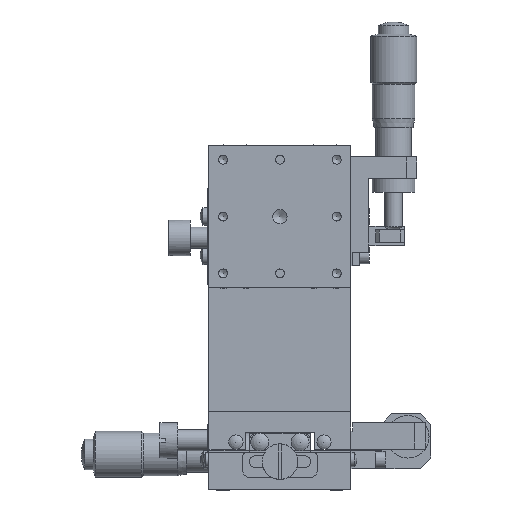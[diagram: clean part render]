
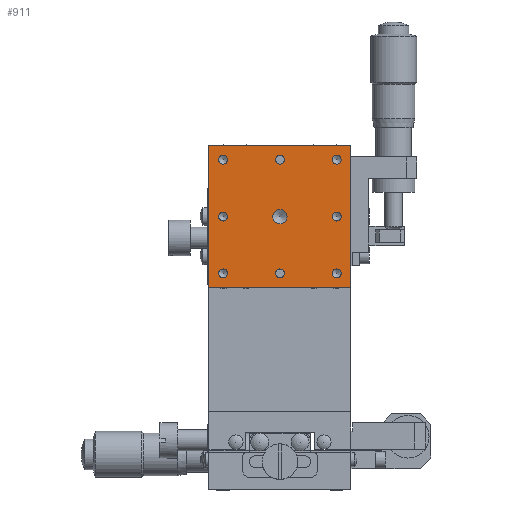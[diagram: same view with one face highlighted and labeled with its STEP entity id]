
A CAD part, front view. The second image highlights one B-rep face of the part: STEP entity #911.
In plain terms, the highlighted planar face has unit normal (0, -1, 0).
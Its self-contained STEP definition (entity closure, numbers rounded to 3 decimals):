
#911 = ADVANCED_FACE( '', ( #2153, #2154, #2155, #2156, #2157, #2158, #2159, #2160, #2161, #2162 ), #2163, .T. );
#2153 = FACE_BOUND( '', #3580, .T. );
#2154 = FACE_BOUND( '', #3581, .T. );
#2155 = FACE_BOUND( '', #3582, .T. );
#2156 = FACE_BOUND( '', #3583, .T. );
#2157 = FACE_BOUND( '', #3584, .T. );
#2158 = FACE_BOUND( '', #3585, .T. );
#2159 = FACE_BOUND( '', #3586, .T. );
#2160 = FACE_BOUND( '', #3587, .T. );
#2161 = FACE_BOUND( '', #3588, .T. );
#2162 = FACE_OUTER_BOUND( '', #3589, .T. );
#2163 = PLANE( '', #3590 );
#3580 = EDGE_LOOP( '', ( #7161 ) );
#3581 = EDGE_LOOP( '', ( #7162 ) );
#3582 = EDGE_LOOP( '', ( #7163 ) );
#3583 = EDGE_LOOP( '', ( #7164 ) );
#3584 = EDGE_LOOP( '', ( #7165 ) );
#3585 = EDGE_LOOP( '', ( #7166 ) );
#3586 = EDGE_LOOP( '', ( #7167 ) );
#3587 = EDGE_LOOP( '', ( #7168 ) );
#3588 = EDGE_LOOP( '', ( #7169 ) );
#3589 = EDGE_LOOP( '', ( #7170, #7171, #7172, #7173 ) );
#3590 = AXIS2_PLACEMENT_3D( '', #7174, #7175, #7176 );
#7161 = ORIENTED_EDGE( '', *, *, #8827, .T. );
#7162 = ORIENTED_EDGE( '', *, *, #8828, .T. );
#7163 = ORIENTED_EDGE( '', *, *, #8829, .T. );
#7164 = ORIENTED_EDGE( '', *, *, #8830, .T. );
#7165 = ORIENTED_EDGE( '', *, *, #8831, .T. );
#7166 = ORIENTED_EDGE( '', *, *, #8832, .T. );
#7167 = ORIENTED_EDGE( '', *, *, #8833, .T. );
#7168 = ORIENTED_EDGE( '', *, *, #8834, .T. );
#7169 = ORIENTED_EDGE( '', *, *, #8835, .T. );
#7170 = ORIENTED_EDGE( '', *, *, #8836, .F. );
#7171 = ORIENTED_EDGE( '', *, *, #8822, .F. );
#7172 = ORIENTED_EDGE( '', *, *, #8837, .F. );
#7173 = ORIENTED_EDGE( '', *, *, #8838, .F. );
#7174 = CARTESIAN_POINT( '', ( 0., -25., 77. ) );
#7175 = DIRECTION( '', ( 0., -1., 0. ) );
#7176 = DIRECTION( '', ( 1., 0., 0. ) );
#8822 = EDGE_CURVE( '', #10668, #10664, #10670, .T. );
#8827 = EDGE_CURVE( '', #10679, #10679, #10680, .T. );
#8828 = EDGE_CURVE( '', #10681, #10681, #10682, .T. );
#8829 = EDGE_CURVE( '', #10683, #10683, #10684, .T. );
#8830 = EDGE_CURVE( '', #10685, #10685, #10686, .T. );
#8831 = EDGE_CURVE( '', #10687, #10687, #10688, .T. );
#8832 = EDGE_CURVE( '', #10689, #10689, #10690, .T. );
#8833 = EDGE_CURVE( '', #10691, #10691, #10692, .T. );
#8834 = EDGE_CURVE( '', #10693, #10693, #10694, .T. );
#8835 = EDGE_CURVE( '', #10695, #10695, #10696, .T. );
#8836 = EDGE_CURVE( '', #10664, #10697, #10698, .T. );
#8837 = EDGE_CURVE( '', #10699, #10668, #10700, .T. );
#8838 = EDGE_CURVE( '', #10697, #10699, #10701, .T. );
#10664 = VERTEX_POINT( '', #13373 );
#10668 = VERTEX_POINT( '', #13379 );
#10670 = LINE( '', #13382, #13383 );
#10679 = VERTEX_POINT( '', #13396 );
#10680 = CIRCLE( '', #13397, 1.25 );
#10681 = VERTEX_POINT( '', #13398 );
#10682 = CIRCLE( '', #13399, 1.25 );
#10683 = VERTEX_POINT( '', #13400 );
#10684 = CIRCLE( '', #13401, 1.25 );
#10685 = VERTEX_POINT( '', #13402 );
#10686 = CIRCLE( '', #13403, 1.25 );
#10687 = VERTEX_POINT( '', #13404 );
#10688 = CIRCLE( '', #13405, 1.25 );
#10689 = VERTEX_POINT( '', #13406 );
#10690 = CIRCLE( '', #13407, 1.25 );
#10691 = VERTEX_POINT( '', #13408 );
#10692 = CIRCLE( '', #13409, 1.25 );
#10693 = VERTEX_POINT( '', #13410 );
#10694 = CIRCLE( '', #13411, 1.25 );
#10695 = VERTEX_POINT( '', #13412 );
#10696 = CIRCLE( '', #13413, 2. );
#10697 = VERTEX_POINT( '', #13414 );
#10698 = LINE( '', #13415, #13416 );
#10699 = VERTEX_POINT( '', #13417 );
#10700 = LINE( '', #13418, #13419 );
#10701 = LINE( '', #13420, #13421 );
#13373 = CARTESIAN_POINT( '', ( 20., -25., 57. ) );
#13379 = CARTESIAN_POINT( '', ( 20., -25., 97. ) );
#13382 = CARTESIAN_POINT( '', ( 20., -25., 77. ) );
#13383 = VECTOR( '', #15389, 1000. );
#13396 = CARTESIAN_POINT( '', ( 17.25, -25., 77. ) );
#13397 = AXIS2_PLACEMENT_3D( '', #15394, #15395, #15396 );
#13398 = CARTESIAN_POINT( '', ( 17.25, -25., 93. ) );
#13399 = AXIS2_PLACEMENT_3D( '', #15397, #15398, #15399 );
#13400 = CARTESIAN_POINT( '', ( 1.25, -25., 93. ) );
#13401 = AXIS2_PLACEMENT_3D( '', #15400, #15401, #15402 );
#13402 = CARTESIAN_POINT( '', ( -14.75, -25., 93. ) );
#13403 = AXIS2_PLACEMENT_3D( '', #15403, #15404, #15405 );
#13404 = CARTESIAN_POINT( '', ( -14.75, -25., 77. ) );
#13405 = AXIS2_PLACEMENT_3D( '', #15406, #15407, #15408 );
#13406 = CARTESIAN_POINT( '', ( -14.75, -25., 61. ) );
#13407 = AXIS2_PLACEMENT_3D( '', #15409, #15410, #15411 );
#13408 = CARTESIAN_POINT( '', ( 1.25, -25., 61. ) );
#13409 = AXIS2_PLACEMENT_3D( '', #15412, #15413, #15414 );
#13410 = CARTESIAN_POINT( '', ( 17.25, -25., 61. ) );
#13411 = AXIS2_PLACEMENT_3D( '', #15415, #15416, #15417 );
#13412 = CARTESIAN_POINT( '', ( 2., -25., 77. ) );
#13413 = AXIS2_PLACEMENT_3D( '', #15418, #15419, #15420 );
#13414 = CARTESIAN_POINT( '', ( -20., -25., 57. ) );
#13415 = CARTESIAN_POINT( '', ( 0., -25., 57. ) );
#13416 = VECTOR( '', #15421, 1000. );
#13417 = CARTESIAN_POINT( '', ( -20., -25., 97. ) );
#13418 = CARTESIAN_POINT( '', ( 0., -25., 97. ) );
#13419 = VECTOR( '', #15422, 1000. );
#13420 = CARTESIAN_POINT( '', ( -20., -25., 77. ) );
#13421 = VECTOR( '', #15423, 1000. );
#15389 = DIRECTION( '', ( 0., 0., -1. ) );
#15394 = CARTESIAN_POINT( '', ( 16., -25., 77. ) );
#15395 = DIRECTION( '', ( 0., 1., 0. ) );
#15396 = DIRECTION( '', ( 1., 0., 0. ) );
#15397 = CARTESIAN_POINT( '', ( 16., -25., 93. ) );
#15398 = DIRECTION( '', ( 0., 1., 0. ) );
#15399 = DIRECTION( '', ( 1., 0., 0. ) );
#15400 = CARTESIAN_POINT( '', ( 0., -25., 93. ) );
#15401 = DIRECTION( '', ( 0., 1., 0. ) );
#15402 = DIRECTION( '', ( 1., 0., 0. ) );
#15403 = CARTESIAN_POINT( '', ( -16., -25., 93. ) );
#15404 = DIRECTION( '', ( 0., 1., 0. ) );
#15405 = DIRECTION( '', ( 1., 0., 0. ) );
#15406 = CARTESIAN_POINT( '', ( -16., -25., 77. ) );
#15407 = DIRECTION( '', ( 0., 1., 0. ) );
#15408 = DIRECTION( '', ( 1., 0., 0. ) );
#15409 = CARTESIAN_POINT( '', ( -16., -25., 61. ) );
#15410 = DIRECTION( '', ( 0., 1., 0. ) );
#15411 = DIRECTION( '', ( 1., 0., 0. ) );
#15412 = CARTESIAN_POINT( '', ( 0., -25., 61. ) );
#15413 = DIRECTION( '', ( 0., 1., 0. ) );
#15414 = DIRECTION( '', ( 1., 0., 0. ) );
#15415 = CARTESIAN_POINT( '', ( 16., -25., 61. ) );
#15416 = DIRECTION( '', ( 0., 1., 0. ) );
#15417 = DIRECTION( '', ( 1., 0., 0. ) );
#15418 = CARTESIAN_POINT( '', ( 0., -25., 77. ) );
#15419 = DIRECTION( '', ( 0., 1., 0. ) );
#15420 = DIRECTION( '', ( 1., 0., 0. ) );
#15421 = DIRECTION( '', ( -1., 0., 0. ) );
#15422 = DIRECTION( '', ( 1., 0., 0. ) );
#15423 = DIRECTION( '', ( 0., 0., 1. ) );
